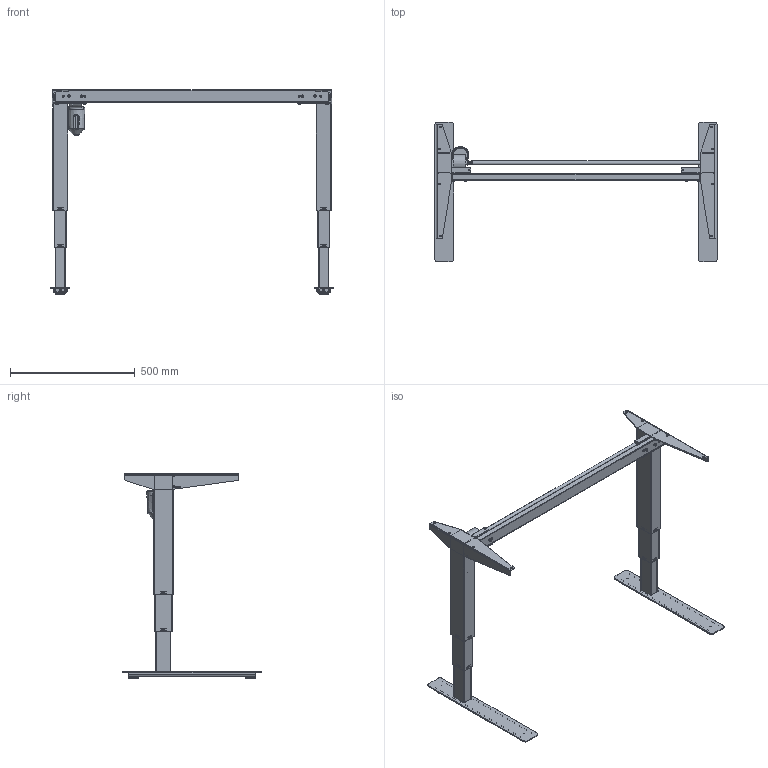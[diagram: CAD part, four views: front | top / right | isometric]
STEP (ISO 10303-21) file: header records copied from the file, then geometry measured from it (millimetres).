
FILE_DESCRIPTION (( 'STEP AP203' ), '1' );
FILE_NAME ('Tech-draw_501-37_XX112.STEP', '2019-09-25T11:32:45', ( '' ), ( '' ), 'SwSTEP 2.0', 'SolidWorks 2018', '' );
FILE_SCHEMA (( 'CONFIG_CONTROL_DESIGN' ));
Length unit declared in the file: millimetre
Products named in the file (32): 134920_silver1; 348720_shell view; 352610; 341180_shell view; 340540_shell view; 148070_silver1; 340760; 144260_112; 341120; 138760_silver; 341140_shell view; 341220; 332570; 341130; 149010_501-37 XS112; 138780_silver; 134950_silver1; 341800_silver; 347920_112; 344430_silver; 344080; 138770_silver; 138750_silver; 340560; 138800_silver1; 341170_shell view; 347910_112; 344070_shell view; Tech-draw_501-37_XX112; 341150_shell view; 138790_silver1; 324520_silver
Assembly tree (59 placements, depth 6):
  Tech-draw_501-37_XX112
    149010_501-37 XS112
      347910_112
      144260_112
        347920_112
        340560
        341220
      138760_silver
        148070_silver1
          341130
          341180_shell view
          348720_shell view
        138780_silver
          138800_silver1
            341150_shell view
            344070_shell view
            344080
          134950_silver1
            341140_shell view
          341800_silver  x4
        341800_silver  x4
        324520_silver  x2
        344430_silver
        352610
      138750_silver
        134920_silver1
          341120
          341170_shell view
          340540_shell view
        138770_silver
          138790_silver1
            341150_shell view
            344070_shell view
            344080
          134950_silver1
            341140_shell view
          341800_silver  x4
        341800_silver  x4
        324520_silver  x2
      340760  x4
      332570  x4
Bounding box: 1129 x 558.8 x 817 mm (x, y, z)
Volume: 2682811.4 mm3; surface area: 2391351.1 mm2
Topology: 48 solids, 48 shells, 2808 faces, 7150 edges, 4475 vertices
Faces by surface type: plane 1641, cylinder 823, bspline 224, cone 69, torus 51
Full cylindrical faces by diameter (mm): 2.8 x4, 3 x2, 4.6 x4, 5 x4, 6 x10, 7 x8, 7.6 x4, 8 x13, 10 x8, 11.9 x2, 12 x1, 13 x2, 15 x4, 16 x2, 18 x1, 20 x1, 37.6 x8, 60 x1
Entity records: 70590 total; most frequent: CARTESIAN_POINT 30171, ORIENTED_EDGE 7766, DIRECTION 7278, EDGE_CURVE 3883, AXIS2_PLACEMENT_3D 2658, VERTEX_POINT 2509, VECTOR 1962, LINE 1962
